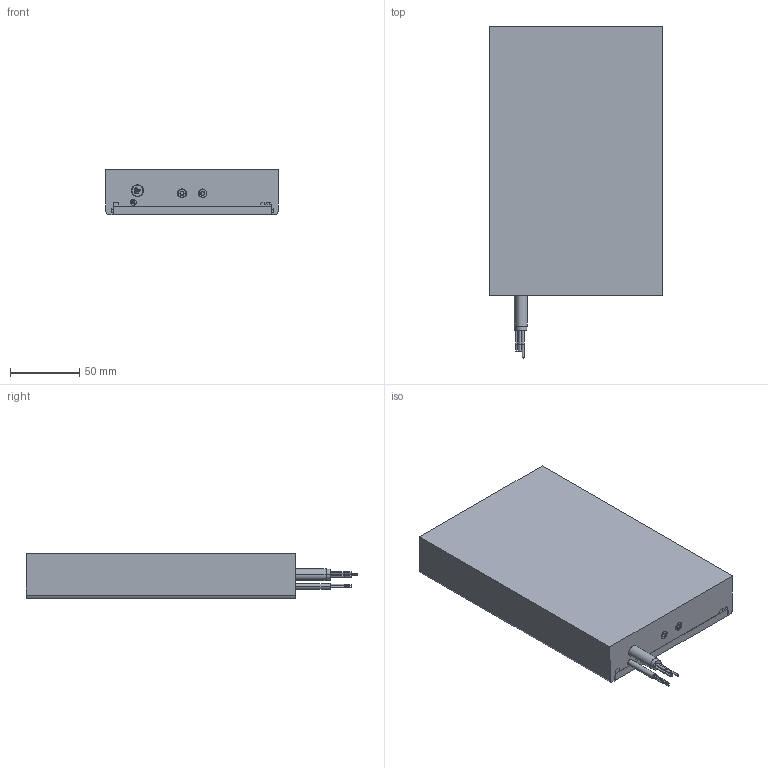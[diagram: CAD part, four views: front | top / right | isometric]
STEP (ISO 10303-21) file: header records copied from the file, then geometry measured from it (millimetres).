
FILE_DESCRIPTION (( 'STEP AP203' ), '1' );
FILE_NAME ('IC124-9 3D.STEP', '2022-02-22T03:48:43', ( '' ), ( '' ), 'SwSTEP 2.0', 'SolidWorks 2021', '' );
FILE_SCHEMA (( 'CONFIG_CONTROL_DESIGN' ));
Length unit declared in the file: millimetre
Products named in the file (1): IC124-9 3D
Bounding box: 125.15 x 239 x 32.4 mm (x, y, z)
Volume: 789814.8 mm3; surface area: 134952.2 mm2
Topology: 9 solids, 9 shells, 523 faces, 1410 edges, 908 vertices
Faces by surface type: cylinder 244, plane 241, torus 26, sphere 12
Entity records: 16559 total; most frequent: DIRECTION 2974, CARTESIAN_POINT 2860, ORIENTED_EDGE 2796, EDGE_CURVE 1398, AXIS2_PLACEMENT_3D 1062, VERTEX_POINT 908, VECTOR 850, LINE 850
